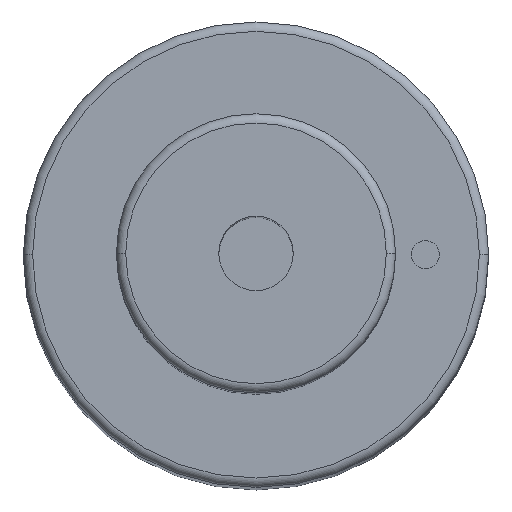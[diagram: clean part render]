
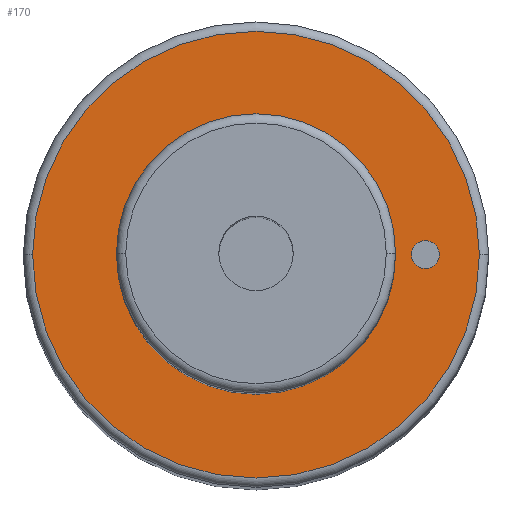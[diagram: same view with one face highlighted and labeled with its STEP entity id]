
A CAD part, top view. The second image highlights one B-rep face of the part: STEP entity #170.
In plain terms, the highlighted planar face has unit normal (0, 0, 1).
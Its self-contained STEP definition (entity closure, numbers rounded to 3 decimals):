
#115=PLANE('',#781);
#129=FACE_BOUND('',#277,.T.);
#130=FACE_BOUND('',#278,.T.);
#131=FACE_BOUND('',#279,.T.);
#170=ADVANCED_FACE('',(#129,#130,#131),#115,.T.);
#277=EDGE_LOOP('',(#483,#484));
#278=EDGE_LOOP('',(#485,#486));
#279=EDGE_LOOP('',(#487,#488));
#295=CIRCLE('',#712,15.);
#296=CIRCLE('',#714,15.);
#300=CIRCLE('',#719,24.);
#301=CIRCLE('',#721,24.);
#331=CIRCLE('',#779,1.5);
#332=CIRCLE('',#780,1.5);
#483=ORIENTED_EDGE('',*,*,#573,.F.);
#484=ORIENTED_EDGE('',*,*,#574,.F.);
#485=ORIENTED_EDGE('',*,*,#626,.F.);
#486=ORIENTED_EDGE('',*,*,#627,.F.);
#487=ORIENTED_EDGE('',*,*,#569,.T.);
#488=ORIENTED_EDGE('',*,*,#567,.T.);
#509=VERTEX_POINT('',#1042);
#510=VERTEX_POINT('',#1044);
#511=VERTEX_POINT('',#1050);
#514=VERTEX_POINT('',#1055);
#546=VERTEX_POINT('',#1170);
#547=VERTEX_POINT('',#1171);
#567=EDGE_CURVE('',#510,#509,#295,.T.);
#569=EDGE_CURVE('',#509,#510,#296,.T.);
#573=EDGE_CURVE('',#514,#511,#300,.T.);
#574=EDGE_CURVE('',#511,#514,#301,.T.);
#626=EDGE_CURVE('',#546,#547,#331,.T.);
#627=EDGE_CURVE('',#547,#546,#332,.T.);
#712=AXIS2_PLACEMENT_3D('',#1043,#832,#833);
#714=AXIS2_PLACEMENT_3D('',#1047,#837,#838);
#719=AXIS2_PLACEMENT_3D('',#1056,#847,#848);
#721=AXIS2_PLACEMENT_3D('',#1058,#851,#852);
#779=AXIS2_PLACEMENT_3D('',#1169,#989,#990);
#780=AXIS2_PLACEMENT_3D('',#1172,#991,#992);
#781=AXIS2_PLACEMENT_3D('',#1173,#993,#994);
#832=DIRECTION('',(0.,0.,-1.));
#833=DIRECTION('',(0.,1.,0.));
#837=DIRECTION('',(0.,0.,-1.));
#838=DIRECTION('',(0.,-1.,0.));
#847=DIRECTION('',(0.,0.,-1.));
#848=DIRECTION('',(0.,1.,0.));
#851=DIRECTION('',(0.,0.,-1.));
#852=DIRECTION('',(0.,-1.,0.));
#989=DIRECTION('',(0.,0.,1.));
#990=DIRECTION('',(0.,1.,0.));
#991=DIRECTION('',(0.,0.,1.));
#992=DIRECTION('',(0.,-1.,0.));
#993=DIRECTION('',(0.,0.,1.));
#994=DIRECTION('',(0.,-1.,0.));
#1042=CARTESIAN_POINT('',(-15.,0.,164.));
#1043=CARTESIAN_POINT('',(0.,0.,164.));
#1044=CARTESIAN_POINT('',(15.,0.,164.));
#1047=CARTESIAN_POINT('',(0.,0.,164.));
#1050=CARTESIAN_POINT('',(-24.,0.,164.));
#1055=CARTESIAN_POINT('',(24.,0.,164.));
#1056=CARTESIAN_POINT('',(0.,0.,164.));
#1058=CARTESIAN_POINT('',(0.,0.,164.));
#1169=CARTESIAN_POINT('',(18.2,0.,164.));
#1170=CARTESIAN_POINT('',(16.7,0.,164.));
#1171=CARTESIAN_POINT('',(19.7,0.,164.));
#1172=CARTESIAN_POINT('',(18.2,0.,164.));
#1173=CARTESIAN_POINT('',(0.,0.,164.));
